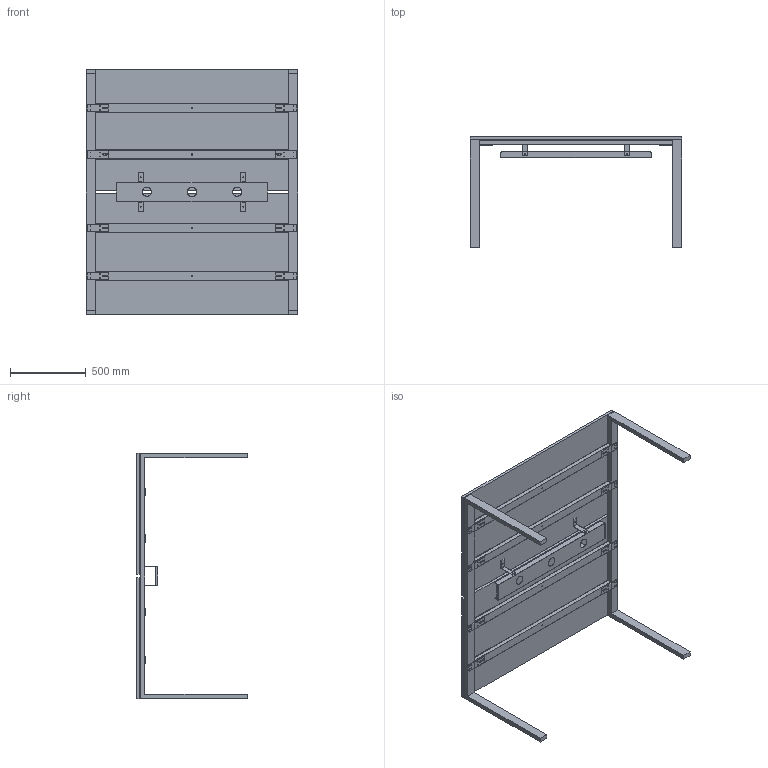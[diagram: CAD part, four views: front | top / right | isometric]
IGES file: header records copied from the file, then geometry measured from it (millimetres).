
Start section: SolidWorks IGES file using analytic representation for surfaces
Global section: file name: C:\Users\hcaixa\Documents\Gabinete Tecnico\72_produtos cliente\Timsteel\Mesas\Mesas Escritorio Operativas\Sistema Level Timsteel\AREIA-STUDIO FURNITURE CONCEPT\IGS\MESA 1620X1400 H740.IGS; native system: SolidWorks 2014; preprocessor: SolidWorks 2014; author: hcaixa; date: 190702.175146; units: millimetre
Bounding box: 1400 x 733 x 1620 mm (x, y, z)
Surface area: 8203166.2 mm2 (no closed solid volume)
Topology: 0 solids, 0 shells, 748 faces, 15616 edges, 15616 vertices
Faces by surface type: revolution 438, bspline 310
